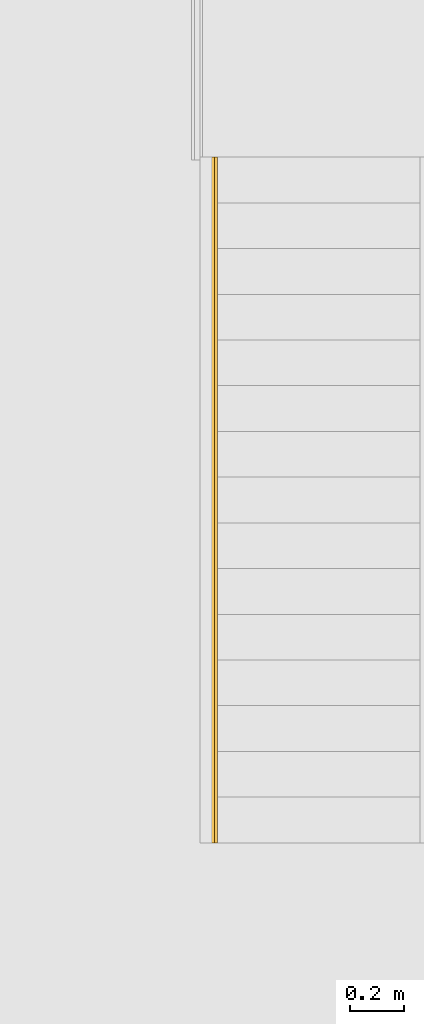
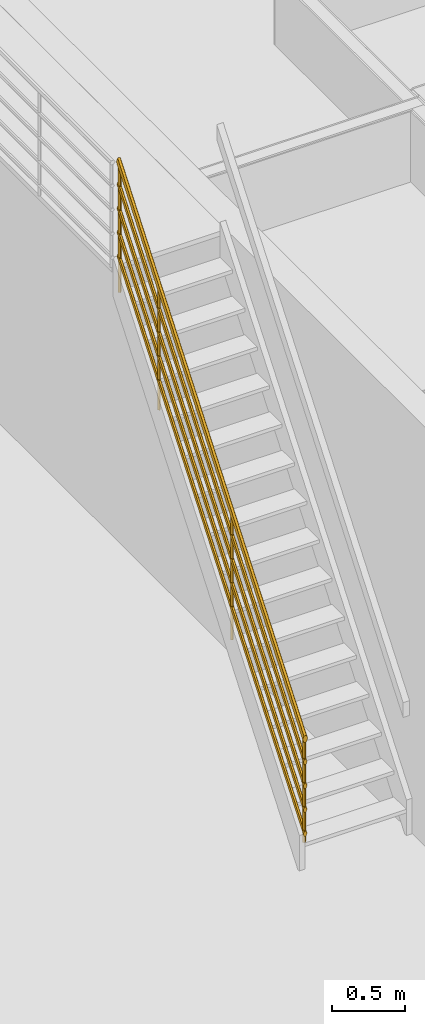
# One storey, part 26 of 67: 1 railing, 1 element without a shape of its own.
"""IFC4 building model written with IfcOpenShell, lengths in millimetres."""

from ifc_helpers import new_model, entity, si_unit, converted_unit, direction, frame, origin, place, context, subcontext, project, spatial, polygons, material, type_object, element, aggregate, save


model = new_model("IFC4")

# Units and contexts
model_context = context("Model", 3, precision=0.01, world=origin(), true_north=direction((0.0, 1.0)))
body_context = subcontext(model_context, "Body", "Model", "MODEL_VIEW")
ifc_project = project(units=[si_unit("LENGTHUNIT", "METRE", prefix="MILLI"), si_unit("AREAUNIT", "SQUARE_METRE"), si_unit("VOLUMEUNIT", "CUBIC_METRE"), converted_unit("PLANEANGLEUNIT", "DEGREE", entity("IfcPlaneAngleMeasure", 0.017453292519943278), si_unit("PLANEANGLEUNIT", "RADIAN"), dimensions=[0, 0, 0, 0, 0, 0, 0])], contexts=[model_context])

# Site, building, storey
site_placement = place(None, origin())
site = spatial("IfcSite", under=ifc_project, at=site_placement, Name="Tomtens navn", CompositionType="ELEMENT")
building_placement = place(site_placement, origin())
building = spatial("IfcBuilding", under=site, at=building_placement, Name="Byggets navn", CompositionType="ELEMENT")
storey_placement = place(building_placement, origin())
storey = spatial("IfcBuildingStorey", under=building, at=storey_placement, Name="Level 01", CompositionType="ELEMENT", Elevation=2.1993652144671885e-25)

# Stair, railing
stair_type = type_object("IfcStairType", Name="Assembled Stair:Ståltrapp A", PredefinedType="STRAIGHT_RUN_STAIR")
stair_placement = place(storey_placement, origin())
stair = element("IfcStair", 1, at=stair_placement, inside=storey, type_object=stair_type, Name="Assembled Stair:Stair", PredefinedType="STRAIGHT_RUN_STAIR")
ifc_material = material(Name="<Unnamed>")
railing_type = type_object("IfcRailingType", Name="Railing:900mm pipe", PredefinedType="NOTDEFINED")
railing_placement = place(stair_placement, frame((57555.921804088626, 11959.878956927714, 218.74999999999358)))
railing = element("IfcRailing", 2, at=railing_placement, type_object=railing_type, material=ifc_material, Name="Railing:900mm pipe", PredefinedType="NOTDEFINED", context=body_context, shape_type="Tessellation", body=[
    polygons([(9.09527223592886, 2001.5874999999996, 3433.529411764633), (21.595272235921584, 2014.0874999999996, 3449.6139705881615), (34.095272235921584, 2001.5874999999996, 3433.529411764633), (34.095272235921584, 2001.5874999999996, 2406.2499999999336), (21.595272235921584, 2014.0874999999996, 2406.2499999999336), (9.09527223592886, 2001.5874999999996, 2406.2499999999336), (21.595272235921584, 1989.0875000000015, 2406.2499999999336), (21.595272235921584, 1989.0875000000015, 3417.4448529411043)], [[[1, 2, 5, 6]], [[2, 3, 4, 5]], [[4, 3, 8, 7]], [[1, 6, 7, 8]], [[8, 3, 2, 1]], [[4, 7, 6, 5]]], closed=True),
    polygons([(9.09527223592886, 1001.5874999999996, 2146.7647058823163), (21.595272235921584, 1014.0874999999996, 2162.849264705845), (34.095272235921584, 1001.5874999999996, 2146.7647058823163), (34.095272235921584, 1001.5874999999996, 1093.7499999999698), (21.595272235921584, 1014.0874999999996, 1093.7499999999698), (9.09527223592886, 1001.5874999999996, 1093.7499999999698), (21.595272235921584, 989.0875000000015, 1093.7499999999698), (21.595272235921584, 989.0875000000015, 2130.680147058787)], [[[1, 2, 5, 6]], [[2, 3, 4, 5]], [[4, 3, 8, 7]], [[1, 6, 7, 8]], [[8, 3, 2, 1]], [[4, 7, 6, 5]]], closed=True),
    polygons([(9.09527223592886, 2539.0874999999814, 4125.165441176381), (21.595272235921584, 2551.5874999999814, 4141.24999999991), (34.095272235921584, 2539.0874999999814, 4125.165441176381), (34.095272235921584, 2539.0874999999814, 3062.499999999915), (21.595272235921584, 2551.5874999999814, 3062.499999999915), (9.09527223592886, 2539.0874999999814, 3062.4999999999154), (21.595272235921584, 2526.5874999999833, 3062.499999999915), (21.595272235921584, 2526.5874999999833, 4109.080882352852)], [[[1, 2, 5, 6]], [[2, 3, 4, 5]], [[4, 3, 8, 7]], [[1, 6, 7, 8]], [[8, 3, 2, 1]], [[4, 7, 6, 5]]], closed=True),
    polygons([(9.09527223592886, 14.087499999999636, 876.0845588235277), (21.595272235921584, 26.587499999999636, 892.1691176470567), (34.095272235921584, 14.087499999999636, 876.0845588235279), (34.095272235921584, 14.087499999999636, 1.1368683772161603e-13), (21.595272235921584, 26.587499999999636, 1.1368683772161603e-13), (9.09527223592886, 14.087499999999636, 8.526512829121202e-14), (21.595272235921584, 1.5874999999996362, 1.1368683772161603e-13), (21.595272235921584, 1.5874999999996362, 859.9999999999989)], [[[1, 2, 5, 6]], [[2, 3, 4, 5]], [[4, 3, 8, 7]], [[1, 6, 7, 8]], [[8, 3, 2, 1]], [[4, 7, 6, 5]]], closed=True),
    polygons([(41.59527223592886, 1.5874999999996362, 867.4069737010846), (31.595272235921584, 1.5874999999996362, 895.6333624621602), (11.59527223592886, 1.5874999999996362, 895.6333624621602), (1.595272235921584, 1.5874999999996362, 867.4069737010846), (11.59527223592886, 1.5874999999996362, 839.1805849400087), (31.595272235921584, 1.5874999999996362, 839.1805849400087), (41.59527223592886, 2551.5874999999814, 4148.656973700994), (31.595272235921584, 2551.5874999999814, 4120.430584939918), (11.59527223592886, 2551.5874999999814, 4120.430584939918), (1.595272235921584, 2551.5874999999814, 4148.656973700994), (11.59527223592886, 2551.5874999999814, 4176.883362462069), (31.595272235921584, 2551.5874999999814, 4176.883362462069), (5.57876829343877, 2551.5874999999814, 4137.4130028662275), (6.59527223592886, 1.5874999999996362, 853.2937793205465), (4.095272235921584, 1.5874999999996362, 860.3503765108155), (21.595272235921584, 1.5874999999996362, 839.1805849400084), (21.595272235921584, 2551.5874999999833, 4120.430584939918), (26.595272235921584, 2551.5874999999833, 4120.430584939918), (36.59527223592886, 1.5874999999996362, 853.2937793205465), (36.595272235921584, 2551.5874999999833, 4134.5437793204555), (39.60352420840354, 2551.5874999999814, 4143.034988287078), (9.09527223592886, 1.5874999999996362, 846.2371821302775), (8.587020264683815, 2551.5874999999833, 4128.921793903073), (16.595272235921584, 1.5874999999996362, 839.1805849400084), (16.595272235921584, 2551.5874999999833, 4120.430584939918), (34.09527223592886, 1.5874999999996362, 846.2371821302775), (34.095272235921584, 2551.5874999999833, 4127.487182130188), (3.587020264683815, 2551.5874999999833, 4143.034988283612), (26.595272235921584, 1.5874999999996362, 839.1805849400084), (39.09527223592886, 1.5874999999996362, 860.3503765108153), (37.6117761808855, 1.5874999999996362, 878.6509445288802), (36.595272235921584, 2551.5874999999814, 4162.770168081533), (34.09527223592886, 2551.5874999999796, 4169.826765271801), (21.595272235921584, 1.5874999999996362, 895.6333624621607), (21.595272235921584, 2551.5874999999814, 4176.88336246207), (16.595272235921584, 2551.5874999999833, 4176.88336246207), (6.59527223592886, 2551.5874999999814, 4162.770168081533), (6.59527223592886, 1.5874999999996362, 881.5201680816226), (9.095272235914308, 1.5874999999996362, 888.5767652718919), (34.60352420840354, 1.5874999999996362, 887.1421534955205), (26.595272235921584, 1.5874999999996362, 895.6333624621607), (26.595272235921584, 2551.5874999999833, 4176.88336246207), (3.5870202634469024, 1.5874999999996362, 873.0289591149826), (4.095272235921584, 2551.5874999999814, 4155.713570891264), (39.60352420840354, 1.5874999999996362, 873.0289591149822), (39.09527223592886, 2551.5874999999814, 4155.713570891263), (16.595272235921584, 1.5874999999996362, 895.6333624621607), (9.09527223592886, 2551.5874999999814, 4169.826765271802)], [[[26, 19, 30, 1, 45, 31, 40, 2, 41, 34, 47, 3, 39, 38, 43, 4, 15, 14, 22, 5, 24, 16, 29, 6]], [[9, 23, 13, 28, 10, 44, 37, 48, 11, 36, 35, 42, 12, 33, 32, 46, 7, 21, 20, 27, 8, 18, 17, 25]], [[14, 15, 4, 10, 28, 13, 23, 9, 5, 22]], [[17, 18, 8, 6, 29, 16, 24, 5, 9, 25]], [[19, 26, 6, 8, 27, 20, 21, 7, 1, 30]], [[2, 40, 31, 45, 1, 7, 46, 32, 33, 12]], [[38, 39, 3, 11, 48, 37, 44, 10, 4, 43]], [[34, 41, 2, 12, 42, 35, 36, 11, 3, 47]]], closed=True),
    polygons([(36.595272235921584, 1.5874999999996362, 675.5552302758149), (29.095272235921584, 1.5874999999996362, 696.7250218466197), (14.095272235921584, 1.5874999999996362, 696.7250218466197), (6.59527223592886, 1.5874999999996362, 675.5552302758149), (14.095272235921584, 1.5874999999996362, 654.3854387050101), (29.095272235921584, 1.5874999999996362, 654.3854387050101), (36.595272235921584, 2551.5874999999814, 3956.805230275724), (29.095272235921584, 2551.5874999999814, 3935.6354387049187), (14.095272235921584, 2551.5874999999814, 3935.6354387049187), (6.59527223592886, 2551.5874999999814, 3956.805230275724), (14.095272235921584, 2551.5874999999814, 3977.9750218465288), (29.095272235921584, 2551.5874999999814, 3977.9750218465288), (11.777963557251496, 2551.5874999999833, 3942.1763642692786), (10.345272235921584, 1.5874999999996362, 664.9703344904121), (9.186617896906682, 1.5874999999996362, 668.2407972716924), (9.18661789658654, 2551.5874999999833, 3949.4907972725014), (21.595272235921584, 2551.5874999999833, 3935.6354387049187), (21.595272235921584, 1.5874999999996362, 654.3854387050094), (17.845272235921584, 1.5874999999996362, 654.3854387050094), (32.845272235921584, 1.5874999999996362, 664.9703344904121), (32.845272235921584, 2551.5874999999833, 3946.220334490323), (34.00392657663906, 2551.5874999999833, 3949.490797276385), (25.34527223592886, 2551.5874999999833, 3935.6354387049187), (25.34527223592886, 1.5874999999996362, 654.3854387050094), (30.97027223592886, 1.5874999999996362, 659.6778865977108), (30.97027223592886, 2551.5874999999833, 3940.927886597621), (12.22027223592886, 1.5874999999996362, 659.6778865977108), (10.482290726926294, 2551.5874999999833, 3945.83358077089), (7.890945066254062, 2551.5874999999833, 3953.1480137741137), (7.890945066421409, 1.5874999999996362, 671.8980137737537), (17.845272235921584, 2551.5874999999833, 3935.6354387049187), (35.29959940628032, 2551.5874999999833, 3953.1480137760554), (34.720272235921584, 1.5874999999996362, 670.2627823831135), (31.41258091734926, 1.5874999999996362, 690.1840962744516), (32.845272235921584, 2551.5874999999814, 3967.3901260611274), (30.970272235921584, 2551.5874999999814, 3972.682573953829), (21.595272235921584, 1.5874999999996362, 696.7250218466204), (21.595272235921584, 2551.5874999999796, 3977.9750218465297), (17.845272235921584, 2551.5874999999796, 3977.9750218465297), (10.345272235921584, 2551.5874999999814, 3967.3901260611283), (10.345272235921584, 1.5874999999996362, 686.1401260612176), (12.220272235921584, 1.5874999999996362, 691.432573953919), (34.00392657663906, 1.5874999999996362, 682.8696632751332), (25.34527223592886, 1.5874999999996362, 696.7250218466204), (25.34527223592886, 2551.5874999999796, 3977.9750218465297), (9.186617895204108, 1.5874999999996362, 682.869663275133), (8.470272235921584, 2551.5874999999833, 3962.0976781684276), (17.845272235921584, 1.5874999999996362, 696.7250218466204), (12.220272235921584, 2551.5874999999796, 3972.682573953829), (35.29959940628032, 1.5874999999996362, 679.2124467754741), (34.720272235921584, 2551.5874999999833, 3962.0976781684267), (32.70825374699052, 1.5874999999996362, 686.5268797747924), (7.890945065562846, 1.5874999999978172, 679.2124467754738)], [[[6, 25, 20, 33, 1, 50, 43, 52, 34, 2, 44, 37, 48, 3, 42, 41, 46, 53, 4, 30, 15, 14, 27, 5, 19, 18, 24]], [[13, 28, 16, 29, 10, 47, 40, 49, 11, 39, 38, 45, 12, 36, 35, 51, 7, 32, 22, 21, 26, 8, 23, 17, 31, 9]], [[14, 15, 30, 4, 10, 29, 16, 28, 13, 9, 5, 27]], [[17, 23, 8, 6, 24, 18, 19, 5, 9, 31]], [[22, 32, 7, 1, 33, 20, 25, 6, 8, 26, 21]], [[2, 34, 52, 43, 50, 1, 7, 51, 35, 36, 12]], [[41, 42, 3, 11, 49, 40, 47, 10, 4, 53, 46]], [[37, 44, 2, 12, 45, 38, 39, 11, 3, 48]]], closed=True),
    polygons([(36.595272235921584, 1.5874999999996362, 475.55523027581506), (29.095272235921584, 1.5874999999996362, 496.72502184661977), (14.095272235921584, 1.5874999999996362, 496.72502184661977), (6.59527223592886, 1.5874999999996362, 475.55523027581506), (14.095272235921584, 1.5874999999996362, 454.38543870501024), (29.095272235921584, 1.5874999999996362, 454.38543870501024), (36.595272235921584, 2551.5874999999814, 3756.8052302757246), (29.095272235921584, 2551.5874999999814, 3735.635438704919), (14.095272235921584, 2551.5874999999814, 3735.635438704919), (6.59527223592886, 2551.5874999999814, 3756.8052302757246), (14.095272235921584, 2551.5874999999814, 3777.975021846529), (29.095272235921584, 2551.5874999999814, 3777.975021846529), (11.777963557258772, 2551.5874999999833, 3742.176364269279), (10.345272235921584, 1.5874999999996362, 464.9703344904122), (9.186617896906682, 1.5874999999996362, 468.24079727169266), (9.186617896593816, 2551.5874999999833, 3749.4907972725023), (21.595272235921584, 2551.5874999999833, 3735.6354387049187), (21.595272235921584, 1.5874999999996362, 454.38543870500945), (17.845272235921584, 1.5874999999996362, 454.38543870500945), (32.845272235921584, 1.5874999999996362, 464.9703344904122), (32.845272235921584, 2551.5874999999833, 3746.220334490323), (34.00392657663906, 2551.5874999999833, 3749.4907972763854), (25.34527223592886, 2551.5874999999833, 3735.635438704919), (25.34527223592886, 1.5874999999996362, 454.38543870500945), (30.97027223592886, 1.5874999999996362, 459.6778865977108), (30.970272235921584, 2551.5874999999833, 3740.927886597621), (12.22027223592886, 1.5874999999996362, 459.6778865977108), (10.482290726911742, 2551.5874999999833, 3745.8335807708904), (7.890945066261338, 2551.5874999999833, 3753.148013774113), (7.890945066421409, 1.5874999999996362, 471.8980137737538), (17.84527223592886, 2551.5874999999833, 3735.635438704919), (35.29959940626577, 2551.5874999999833, 3753.148013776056), (34.720272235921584, 1.5874999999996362, 470.2627823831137), (31.41258091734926, 1.5874999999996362, 490.18409627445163), (32.845272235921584, 2551.5874999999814, 3767.3901260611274), (30.970272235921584, 2551.5874999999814, 3772.6825739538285), (21.595272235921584, 1.5874999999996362, 496.72502184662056), (21.595272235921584, 2551.5874999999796, 3777.97502184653), (17.845272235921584, 2551.5874999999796, 3777.97502184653), (10.345272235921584, 2551.5874999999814, 3767.3901260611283), (10.345272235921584, 1.5874999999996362, 486.1401260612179), (12.220272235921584, 1.5874999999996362, 491.4325739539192), (34.00392657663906, 1.5874999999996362, 482.8696632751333), (25.34527223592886, 1.5874999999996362, 496.72502184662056), (25.34527223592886, 2551.5874999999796, 3777.97502184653), (9.186617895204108, 1.5874999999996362, 482.8696632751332), (8.470272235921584, 2551.5874999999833, 3762.0976781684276), (17.845272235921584, 1.5874999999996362, 496.72502184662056), (12.220272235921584, 2551.5874999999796, 3772.6825739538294), (35.29959940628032, 1.5874999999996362, 479.21244677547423), (34.720272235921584, 2551.5874999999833, 3762.0976781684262), (32.70825374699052, 1.5874999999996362, 486.5268797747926), (7.890945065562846, 1.5874999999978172, 479.212446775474)], [[[6, 25, 20, 33, 1, 50, 43, 52, 34, 2, 44, 37, 48, 3, 42, 41, 46, 53, 4, 30, 15, 14, 27, 5, 19, 18, 24]], [[13, 28, 16, 29, 10, 47, 40, 49, 11, 39, 38, 45, 12, 36, 35, 51, 7, 32, 22, 21, 26, 8, 23, 17, 31, 9]], [[14, 15, 30, 4, 10, 29, 16, 28, 13, 9, 5, 27]], [[17, 23, 8, 6, 24, 18, 19, 5, 9, 31]], [[22, 32, 7, 1, 33, 20, 25, 6, 8, 26, 21]], [[2, 34, 52, 43, 50, 1, 7, 51, 35, 36, 12]], [[41, 42, 3, 11, 49, 40, 47, 10, 4, 53, 46]], [[37, 44, 2, 12, 45, 38, 39, 11, 3, 48]]], closed=True),
    polygons([(36.595272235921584, 1.5874999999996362, 275.5552302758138), (29.095272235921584, 1.5874999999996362, 296.7250218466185), (14.095272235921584, 1.5874999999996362, 296.72502184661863), (6.59527223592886, 1.5874999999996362, 275.55523027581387), (14.095272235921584, 1.5874999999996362, 254.3854387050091), (29.095272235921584, 1.5874999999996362, 254.38543870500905), (36.595272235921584, 2551.5874999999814, 3556.8052302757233), (29.095272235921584, 2551.5874999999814, 3535.635438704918), (14.095272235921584, 2551.5874999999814, 3535.635438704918), (6.59527223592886, 2551.5874999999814, 3556.8052302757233), (14.095272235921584, 2551.5874999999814, 3577.975021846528), (29.095272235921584, 2551.5874999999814, 3577.975021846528), (11.777963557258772, 2551.5874999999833, 3542.1763642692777), (10.345272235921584, 1.5874999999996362, 264.9703344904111), (9.186617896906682, 1.5874999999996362, 268.2407972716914), (9.186617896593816, 2551.5874999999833, 3549.490797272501), (21.595272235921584, 2551.5874999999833, 3535.6354387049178), (21.595272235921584, 1.5874999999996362, 254.3854387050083), (17.845272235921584, 1.5874999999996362, 254.3854387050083), (32.845272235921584, 1.5874999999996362, 264.97033449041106), (32.845272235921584, 2551.5874999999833, 3546.2203344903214), (34.00392657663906, 2551.5874999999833, 3549.4907972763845), (25.34527223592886, 2551.5874999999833, 3535.635438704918), (25.34527223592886, 1.5874999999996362, 254.3854387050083), (30.97027223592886, 1.5874999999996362, 259.67788659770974), (30.970272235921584, 2551.5874999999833, 3540.92788659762), (12.22027223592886, 1.5874999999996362, 259.67788659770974), (10.482290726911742, 2551.5874999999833, 3545.8335807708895), (7.890945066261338, 2551.5874999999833, 3553.1480137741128), (7.890945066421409, 1.5874999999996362, 271.89801377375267), (17.84527223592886, 2551.5874999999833, 3535.6354387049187), (35.29959940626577, 2551.5874999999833, 3553.148013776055), (34.720272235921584, 1.5874999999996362, 270.2627823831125), (31.41258091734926, 1.5874999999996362, 290.1840962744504), (32.845272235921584, 2551.5874999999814, 3567.390126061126), (30.970272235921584, 2551.5874999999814, 3572.682573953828), (21.595272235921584, 1.5874999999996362, 296.7250218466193), (21.595272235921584, 2551.5874999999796, 3577.975021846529), (17.845272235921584, 2551.5874999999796, 3577.975021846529), (10.345272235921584, 2551.5874999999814, 3567.3901260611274), (10.345272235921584, 1.5874999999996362, 286.1401260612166), (12.220272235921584, 1.5874999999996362, 291.43257395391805), (34.00392657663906, 1.5874999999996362, 282.8696632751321), (25.34527223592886, 1.5874999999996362, 296.7250218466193), (25.34527223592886, 2551.5874999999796, 3577.975021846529), (9.186617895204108, 1.5874999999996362, 282.869663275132), (8.470272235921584, 2551.5874999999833, 3562.0976781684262), (17.845272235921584, 1.5874999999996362, 296.7250218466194), (12.220272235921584, 2551.5874999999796, 3572.682573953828), (35.29959940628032, 1.5874999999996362, 279.212446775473), (34.720272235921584, 2551.5874999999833, 3562.0976781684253), (32.70825374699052, 1.5874999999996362, 286.5268797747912), (7.890945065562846, 1.5874999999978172, 279.212446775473)], [[[25, 20, 33, 1, 50, 43, 52, 34, 2, 44, 37, 48, 3, 42, 41, 46, 53, 4, 30, 15, 14, 27, 5, 19, 18, 24, 6]], [[13, 28, 16, 29, 10, 47, 40, 49, 11, 39, 38, 45, 12, 36, 35, 51, 7, 32, 22, 21, 26, 8, 23, 17, 31, 9]], [[14, 15, 30, 4, 10, 29, 16, 28, 13, 9, 5, 27]], [[17, 23, 8, 6, 24, 18, 19, 5, 9, 31]], [[22, 32, 7, 1, 33, 20, 25, 6, 8, 26, 21]], [[2, 34, 52, 43, 50, 1, 7, 51, 35, 36, 12]], [[41, 42, 3, 11, 49, 40, 47, 10, 4, 53, 46]], [[37, 44, 2, 12, 45, 38, 39, 11, 3, 48]]], closed=True),
    polygons([(36.595272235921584, 1.5874999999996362, 75.55523027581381), (29.095272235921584, 1.5874999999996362, 96.72502184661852), (14.095272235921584, 1.5874999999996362, 96.72502184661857), (6.59527223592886, 1.5874999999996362, 75.55523027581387), (14.095272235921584, 1.5874999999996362, 54.38543870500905), (29.095272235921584, 1.5874999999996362, 54.38543870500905), (36.595272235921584, 2551.5874999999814, 3356.8052302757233), (29.095272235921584, 2551.5874999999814, 3335.635438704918), (14.095272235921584, 2551.5874999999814, 3335.635438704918), (6.59527223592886, 2551.5874999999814, 3356.8052302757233), (14.095272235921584, 2551.5874999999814, 3377.975021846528), (29.095272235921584, 2551.5874999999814, 3377.975021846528), (11.777963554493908, 2551.5874999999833, 3342.1763642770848), (10.34527223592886, 1.5874999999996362, 64.97033449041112), (9.186617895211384, 1.5874999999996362, 68.24079727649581), (9.186617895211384, 2551.5874999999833, 3349.4907972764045), (21.595272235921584, 2551.5874999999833, 3335.635438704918), (21.595272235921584, 1.5874999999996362, 54.385438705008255), (17.84527223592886, 1.5874999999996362, 54.38543870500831), (32.845272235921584, 1.5874999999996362, 64.970334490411), (32.845272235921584, 2551.5874999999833, 3346.2203344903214), (34.00392657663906, 2551.5874999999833, 3349.490797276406), (25.34527223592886, 2551.5874999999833, 3335.635438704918), (25.345272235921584, 1.5874999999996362, 54.385438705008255), (30.970272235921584, 1.5874999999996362, 59.67788659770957), (30.97027223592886, 2551.5874999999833, 3340.9278865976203), (12.220272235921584, 1.5874999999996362, 59.67788659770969), (10.48229072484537, 2551.5874999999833, 3345.833580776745), (7.890945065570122, 2551.587499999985, 3353.1480137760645), (7.890945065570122, 1.5874999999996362, 71.89801377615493), (17.845272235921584, 2551.5874999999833, 3335.635438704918), (35.29959940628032, 2551.5874999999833, 3353.148013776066), (34.720272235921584, 1.5874999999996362, 70.26278238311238), (31.41258091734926, 1.5874999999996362, 90.18409627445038), (32.845272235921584, 2551.5874999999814, 3367.390126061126), (30.970272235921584, 2551.5874999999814, 3372.682573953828), (21.595272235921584, 1.5874999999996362, 96.72502184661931), (21.595272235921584, 2551.5874999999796, 3377.9750218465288), (17.845272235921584, 2551.5874999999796, 3377.9750218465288), (10.345272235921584, 2551.5874999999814, 3367.3901260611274), (10.345272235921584, 1.5874999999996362, 86.14012606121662), (12.22027223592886, 1.5874999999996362, 91.43257395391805), (34.00392657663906, 1.5874999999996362, 82.8696632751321), (25.34527223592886, 1.5874999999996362, 96.72502184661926), (25.34527223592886, 2551.5874999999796, 3377.9750218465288), (9.186617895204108, 1.5874999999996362, 82.86966327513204), (8.470272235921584, 2551.5874999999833, 3362.0976781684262), (17.845272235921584, 1.5874999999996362, 96.72502184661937), (12.220272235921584, 2551.5874999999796, 3372.682573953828), (35.29959940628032, 1.5874999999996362, 79.21244677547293), (34.720272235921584, 2551.5874999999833, 3362.0976781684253), (32.70825374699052, 1.5874999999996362, 86.52687977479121), (7.890945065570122, 1.5874999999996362, 79.21244677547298)], [[[25, 20, 33, 1, 50, 43, 52, 34, 2, 44, 37, 48, 3, 42, 41, 46, 53, 4, 30, 15, 14, 27, 5, 19, 18, 24, 6]], [[13, 28, 16, 29, 10, 47, 40, 49, 11, 39, 38, 45, 12, 36, 35, 51, 7, 32, 22, 21, 26, 8, 23, 17, 31, 9]], [[14, 15, 30, 4, 10, 29, 16, 28, 13, 9, 5, 27]], [[17, 23, 8, 6, 24, 18, 19, 5, 9, 31]], [[20, 25, 6, 8, 26, 21, 22, 32, 7, 1, 33]], [[2, 34, 52, 43, 50, 1, 7, 51, 35, 36, 12]], [[41, 42, 3, 11, 49, 40, 47, 10, 4, 53, 46]], [[37, 44, 2, 12, 45, 38, 39, 11, 3, 48]]], closed=True),
])
aggregate(stair, [railing])

save(model, "model.ifc")
